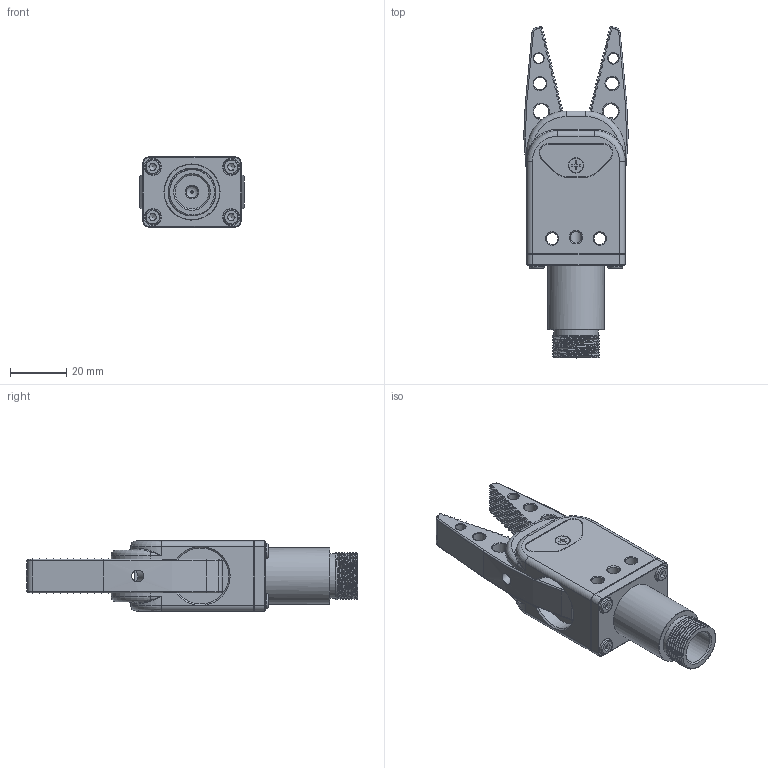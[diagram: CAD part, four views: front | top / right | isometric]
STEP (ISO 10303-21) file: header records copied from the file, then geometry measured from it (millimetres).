
FILE_DESCRIPTION(/* description */ (''),/* implementation_level */ '2;1');
FILE_NAME(/* name */ '_model1.stp',/* time_stamp */ '2023-03-08T16:24:17+08:00',/* author */ (''),/* organization */ (''),/* preprocessor_version */ 'ST-DEVELOPER v16',/* originating_system */ 'SIEMENS PLM Software NX 10.0',/* authorisation */ '');
FILE_SCHEMA (('AUTOMOTIVE_DESIGN { 1 0 10303 214 3 1 1 1 }'));
Products named in the file (1): Admi115498B06jg6
Bounding box: 37.17 x 118.44 x 25 mm (x, y, z)
Volume: 50433.2 mm3; surface area: 21193.3 mm2
Topology: 1 solids, 16 shells, 1846 faces, 4671 edges, 3029 vertices
Faces by surface type: plane 1483, cylinder 167, cone 125, revolution 40, bspline 31
Full cylindrical faces by diameter (mm): 0.8 x1, 2.5 x4, 3 x29, 3.2 x1, 3.4 x4, 3.5 x2, 3.541 x4, 4 x8, 4.2 x8, 4.5 x2, 5 x4, 5.2 x1, 5.5 x6, 6 x4, 7.8 x2, 12 x1, 15.8 x1, 20 x1
Entity records: 84949 total; most frequent: CARTESIAN_POINT 29311, ORIENTED_EDGE 8624, DIRECTION 8303, EDGE_CURVE 4312, LINE 3671, VECTOR 3671, VERTEX_POINT 2892, EDGE_LOOP 2310
